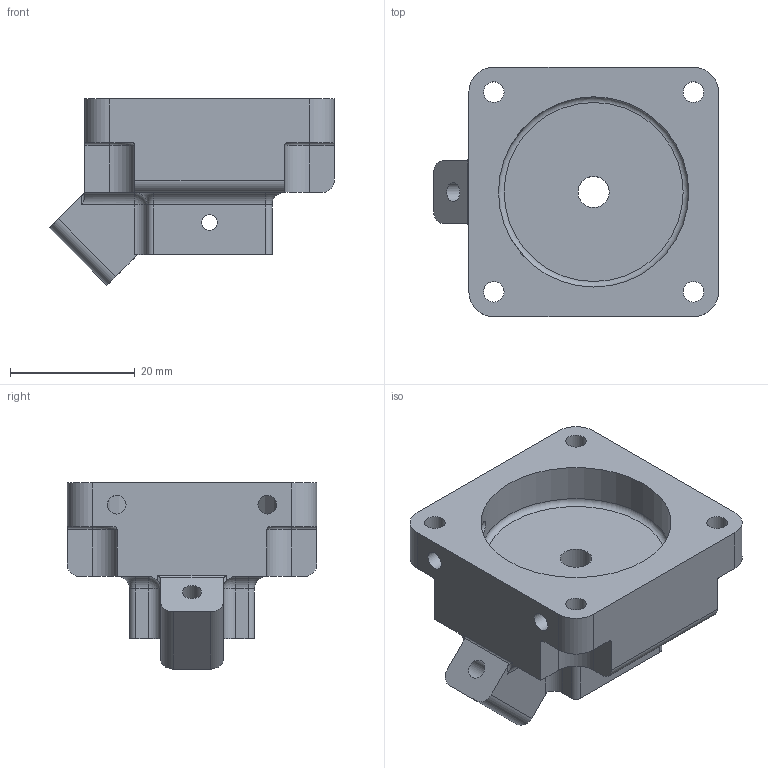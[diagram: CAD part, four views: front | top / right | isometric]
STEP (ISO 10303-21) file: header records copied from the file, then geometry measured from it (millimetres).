
FILE_DESCRIPTION( ('This file contains a STEP AP42 implementation' ,'as created by ZW3D STEP Interface translator.') ,'2;1' );
FILE_NAME( 'Wrist.stp' ,'24 9 3.133217', (''), ('ZWCAD Software Co.'), 'Version 1.0', 'ZW3D to STEP translator', '' );
FILE_SCHEMA(('AUTOMOTIVE_DESIGN { 1 0 10303 214 1 1 1 1 }'));
Length unit declared in the file: millimetre
Products named in the file (2): 0; Wrist
Bounding box: 45.65 x 40 x 29.85 mm (x, y, z)
Volume: 20487.2 mm3; surface area: 8202.6 mm2
Topology: 1 solids, 1 shells, 106 faces, 271 edges, 169 vertices
Faces by surface type: cylinder 56, plane 35, torus 9, sphere 6
Full cylindrical faces by diameter (mm): 2.5 x2, 3 x3, 3.3 x4, 5 x1, 30.5 x1
Entity records: 3477 total; most frequent: CARTESIAN_POINT 667, DIRECTION 583, ORIENTED_EDGE 542, EDGE_CURVE 271, AXIS2_PLACEMENT_3D 217, VERTEX_POINT 169, VECTOR 149, LINE 149
